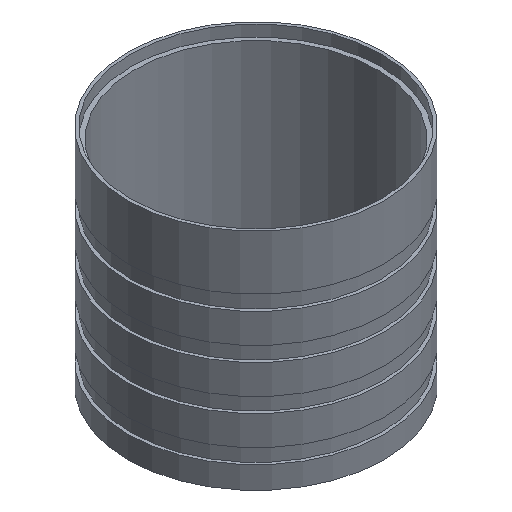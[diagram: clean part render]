
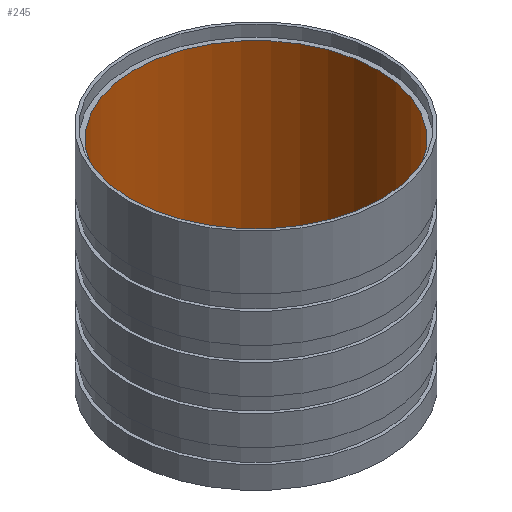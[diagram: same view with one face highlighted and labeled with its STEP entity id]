
A CAD part, isometric view. The second image highlights one B-rep face of the part: STEP entity #245.
In plain terms, the highlighted cylindrical face has radius 41 mm (diameter 82 mm), a full revolution.
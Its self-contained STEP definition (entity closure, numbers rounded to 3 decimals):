
#41=ORIENTED_EDGE('',*,*,#85,.T.);
#42=ORIENTED_EDGE('',*,*,#86,.F.);
#85=EDGE_CURVE('',#107,#107,#129,.T.);
#86=EDGE_CURVE('',#108,#108,#130,.T.);
#107=VERTEX_POINT('',#437);
#108=VERTEX_POINT('',#439);
#129=CIRCLE('',#291,41.);
#130=CIRCLE('',#292,41.);
#151=EDGE_LOOP('',(#41));
#152=EDGE_LOOP('',(#42));
#195=FACE_BOUND('',#151,.T.);
#196=FACE_BOUND('',#152,.T.);
#234=CYLINDRICAL_SURFACE('',#290,41.);
#245=ADVANCED_FACE('',(#195,#196),#234,.F.);
#290=AXIS2_PLACEMENT_3D('',#435,#351,#352);
#291=AXIS2_PLACEMENT_3D('',#436,#353,#354);
#292=AXIS2_PLACEMENT_3D('',#438,#355,#356);
#351=DIRECTION('',(0.,0.,-1.));
#352=DIRECTION('',(-1.,0.,0.));
#353=DIRECTION('',(0.,0.,-1.));
#354=DIRECTION('',(-1.,0.,0.));
#355=DIRECTION('',(0.,0.,-1.));
#356=DIRECTION('',(-1.,0.,0.));
#435=CARTESIAN_POINT('',(0.,0.,54.));
#436=CARTESIAN_POINT('',(0.,0.,0.));
#437=CARTESIAN_POINT('',(-41.,0.,0.));
#438=CARTESIAN_POINT('',(0.,0.,72.2));
#439=CARTESIAN_POINT('',(-41.,0.,72.2));
